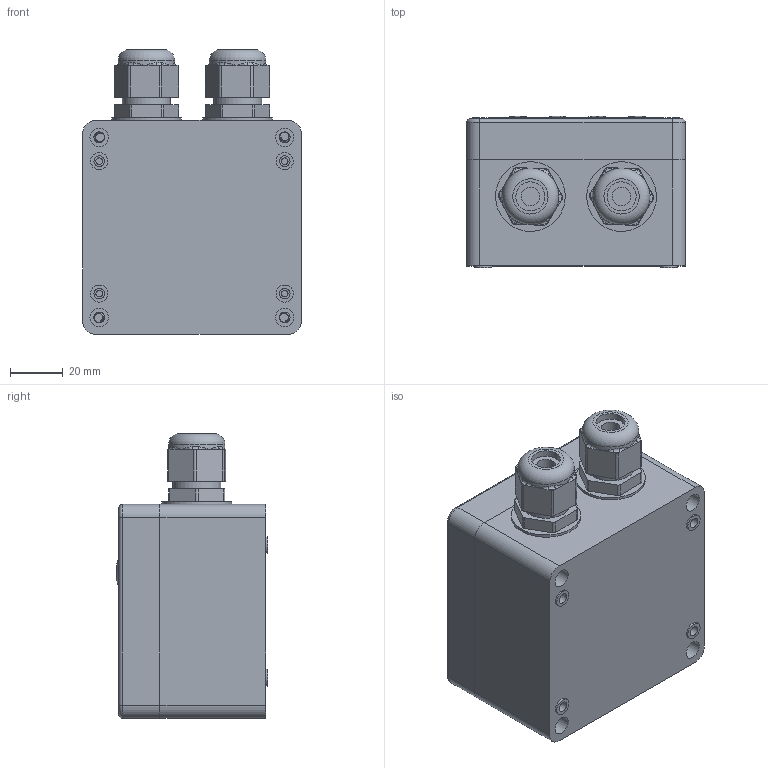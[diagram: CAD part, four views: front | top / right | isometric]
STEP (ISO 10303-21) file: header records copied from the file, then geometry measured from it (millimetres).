
FILE_DESCRIPTION(('STEP AP203'), '1');
FILE_NAME('栖闉罻_SIM-05-1', '', ('UNSPECIFIED'), ('UNSPECIFIED'), 'ASCON STEP Converter 1.6', 'ASCON Math Kernel', '');
FILE_SCHEMA(('CONFIG_CONTROL_DESIGN'));
Length unit declared in the file: millimetre
Products named in the file (14): SIM-17; SANHE_11-88-2_case_Џｮ гｬｮｫзｭЁо; SANHE_11-88-2_cover_Џｮ гｬｮｫзｭЁо; ScrewBolt_CONFIGURABLE_+_M04_L22+3; SANHE_face_shield_Џｮ гｬｮｫзｭЁо; Гермоввод PG11 в сборе; Гермоввод PG11 цанга_Џｮ гｬｮｫзｭЁо; Гермоввод PG11 резинка_Џｮ гｬｮｫзｭЁо; Гермоввод PG11 гайка-зажим_Џｮ гｬｮｫзｭЁо; Гермоввод PG11 шайба_Џｮ гｬｮｫзｭЁо
Assembly tree (17 placements, depth 3):
  SIM-17
    SANHE_11-88-2_case_Џｮ гｬｮｫзｭЁо
    SANHE_11-88-2_cover_Џｮ гｬｮｫзｭЁо
    ScrewBolt_CONFIGURABLE_+_M04_L22+3  x4
    SANHE_face_shield_Џｮ гｬｮｫзｭЁо
    Гермоввод PG11 в сборе  x2
      Гермоввод PG11 цанга_Џｮ гｬｮｫзｭЁо
      Гермоввод PG11 резинка_Џｮ гｬｮｫзｭЁо
      Гермоввод PG11 гайка-зажим_Џｮ гｬｮｫзｭЁо
      Гермоввод PG11 шайба_Џｮ гｬｮｫзｭЁо
    (unnamed)
    (unnamed)
    (unnamed)
    (unnamed)
Bounding box: 82.61 x 57.2 x 107.5 mm (x, y, z)
Volume: 117450.3 mm3; surface area: 103979.3 mm2
Topology: 169 solids, 169 shells, 7054 faces, 19858 edges, 13191 vertices
Faces by surface type: plane 5319, extrusion 1297, cylinder 376, bspline 32, torus 26, cone 4
Full cylindrical faces by diameter (mm): 1.3 x4, 1.6 x4, 2.5 x4, 2.789 x120, 3 x6, 4 x12, 4.8 x4, 6.5 x8, 6.6 x4, 7 x10, 7.2 x4, 8 x4, 10.2 x2, 11 x2, 13.2 x2, 13.5 x4, 18.2 x10, 21.3 x2, 26.3 x2
Entity records: 240443 total; most frequent: CARTESIAN_POINT 64164, ORIENTED_EDGE 38248, DIRECTION 29249, EDGE_CURVE 19124, VECTOR 17247, LINE 15950, VERTEX_POINT 12787, EDGE_LOOP 7117
